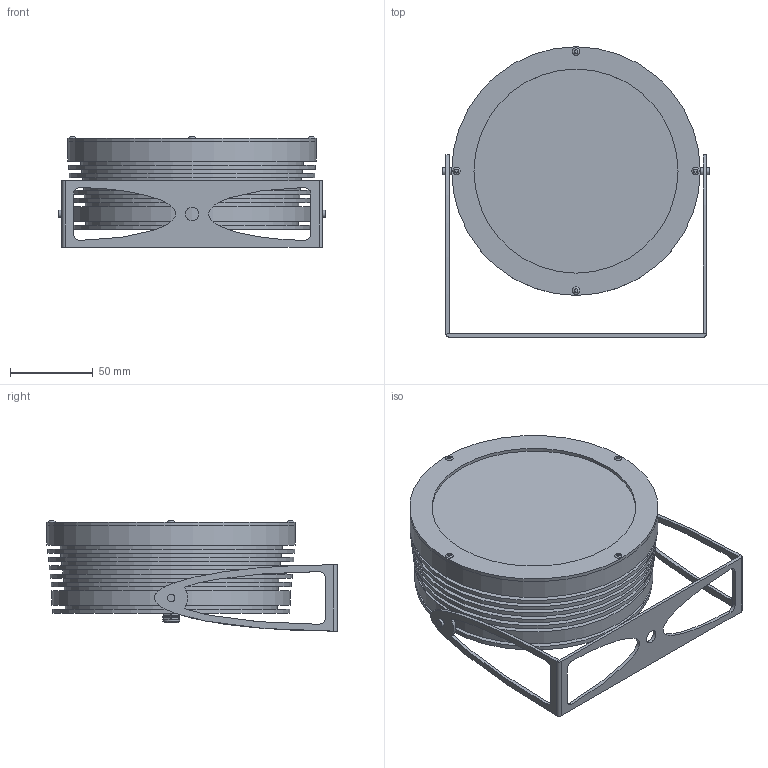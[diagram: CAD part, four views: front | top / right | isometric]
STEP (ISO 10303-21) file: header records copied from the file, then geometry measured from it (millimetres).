
FILE_DESCRIPTION(/* description */ (''),/* implementation_level */ '2;1');
FILE_NAME(/* name */ 'C:/Elena/ILM/02 3D/Crystal/Pubblico/Crystal Classic.step',/* time_stamp */ '2020-05-27T12:42:41+02:00',/* author */ (''),/* organization */ (''),/* preprocessor_version */ 'ST-DEVELOPER v18.1',/* originating_system */ 'Autodesk Translation Framework v9.3.0.1241',/* authorisation */ '');
FILE_SCHEMA (('AUTOMOTIVE_DESIGN { 1 0 10303 214 3 1 1 }'));
Products named in the file (1): Crystal Classic
Bounding box: 161.19 x 174.9 x 66.44 mm (x, y, z)
Volume: 681094 mm3; surface area: 237029.5 mm2
Topology: 14 solids, 18 shells, 1874 faces, 4968 edges, 3096 vertices
Faces by surface type: plane 876, bspline 296, cone 229, cylinder 217, torus 176, sphere 80
Full cylindrical faces by diameter (mm): 2.4 x4, 3 x4, 3.1 x4, 4 x4, 4.5 x2, 5 x1, 8 x1, 10.003 x1, 10.127 x1, 49.998 x4, 50 x4, 122.706 x1, 123 x1, 123.003 x1, 125.003 x1, 127.803 x1, 128.803 x1, 129.803 x1, 130.803 x1, 131.803 x1, 132.003 x1, 132.803 x1, 133.803 x1, 137.5 x1, 138.003 x1, 142.803 x1, 143.803 x1, 144.803 x1, 145.803 x1, 146.803 x1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
Entity records: 81469 total; most frequent: CARTESIAN_POINT 37302, ORIENTED_EDGE 9782, DIRECTION 8571, EDGE_CURVE 4891, AXIS2_PLACEMENT_3D 3369, VERTEX_POINT 3094, EDGE_LOOP 1975, FACE_OUTER_BOUND 1874
